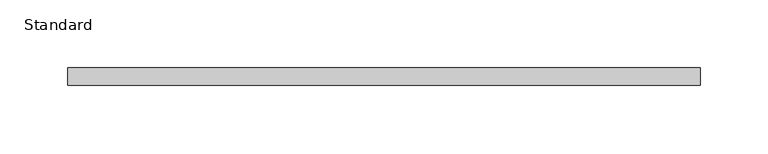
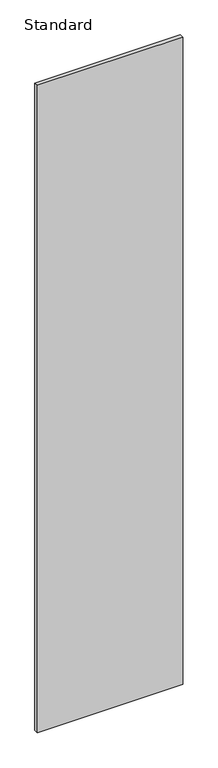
"""IFC4 building model written with IfcOpenShell, lengths in millimetres: furniture geometry, X_Partition-Compact Laminate-Duracube-Rectangular : Standard."""

from ifc_helpers import new_model, si_unit, frame, origin, place, context, project, spatial, polyline, outline, extrude, source, transform, mapped, element, save


def standard_2b15ccc3(model_context):
    return source(origin(), model_context, "Body", "SweptSolid", [
        extrude(outline(polyline([(278.0753264, 0.0), (278.0753264, -13.0), (-188.6746736, -13.0), (-188.6746736, 0.0), (278.0753264, 0.0)])), frame((0.0, 0.0, 200.0), z_axis=(0.0, 0.0, 1.0), x_axis=(1.0, 0.0, 0.0)), (0.0, 0.0, 1.0), 2198.0),
    ])


if __name__ == "__main__":
    model = new_model("IFC4")
    model_context = context("Model", 3, world=origin())
    ifc_project = project(units=[si_unit("LENGTHUNIT", "METRE", prefix="MILLI")], contexts=[model_context])
    site = spatial("IfcSite", under=ifc_project)
    building = spatial("IfcBuilding", under=site)
    placement = place(None, origin())
    standard_shape = standard_2b15ccc3(model_context)
    element("IfcFurniture", 1, ObjectType="X_Partition-Compact Laminate-Duracube-Rectangular : Standard", at=placement, inside=building, context=model_context, shape_type="MappedRepresentation", body=[
        mapped(standard_shape, transform((0.0, 0.0, 0.0), x_axis=(1.0, 0.0, 0.0), y_axis=(0.0, 1.0, 0.0), z_axis=(0.0, 0.0, 1.0))),
    ])
    save(model, "model.ifc")
